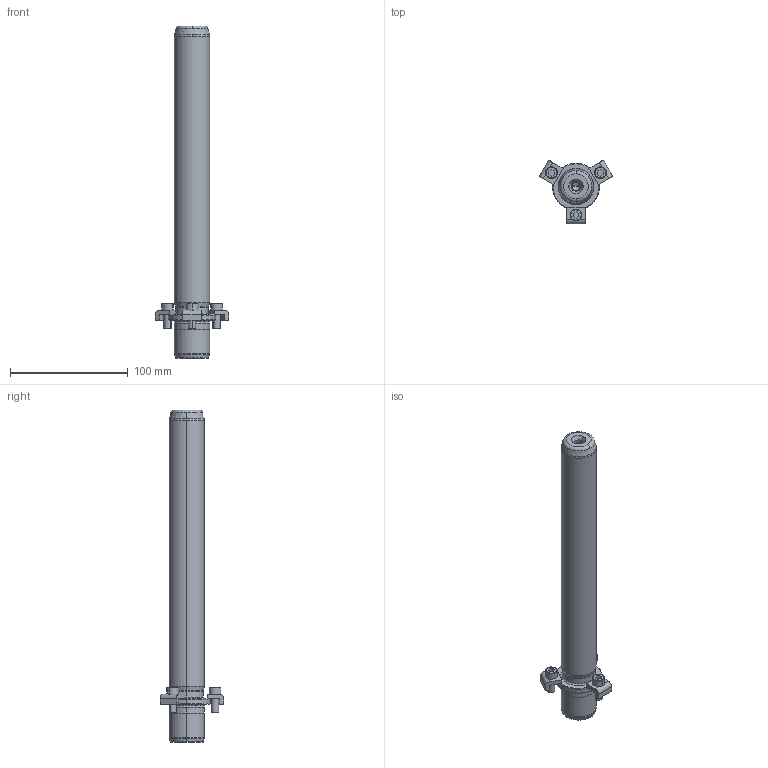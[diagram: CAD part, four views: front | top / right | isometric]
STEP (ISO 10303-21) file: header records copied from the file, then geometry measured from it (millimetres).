
FILE_DESCRIPTION((''),'2;1');
FILE_NAME('P21_030_250.stp','2008-12-23T09:57:51',(''),(''),'Mechanical Desktop 2009','Mechanical Desktop 2009',', , ');
FILE_SCHEMA(('CONFIG_CONTROL_DESIGN'));
Length unit declared in the file: millimetre
Products named in the file (2): Product; blmdl1
Assembly tree (1 placements, depth 2):
  Product
    blmdl1
Bounding box: 62.51 x 54.13 x 282 mm (x, y, z)
Volume: 203342.2 mm3; surface area: 34510.2 mm2
Topology: 7 solids, 7 shells, 163 faces, 399 edges, 257 vertices
Faces by surface type: plane 59, cylinder 44, cone 32, torus 14, bspline 14
Entity records: 5517 total; most frequent: CARTESIAN_POINT 1433, DIRECTION 908, ORIENTED_EDGE 790, EDGE_CURVE 395, AXIS2_PLACEMENT_3D 362, VERTEX_POINT 257, CIRCLE 211, VECTOR 184
